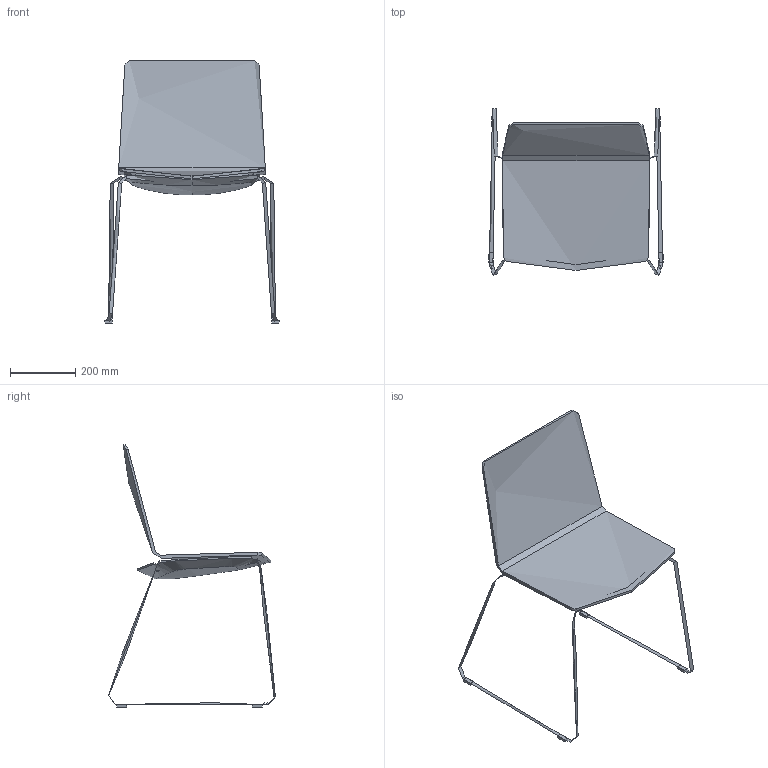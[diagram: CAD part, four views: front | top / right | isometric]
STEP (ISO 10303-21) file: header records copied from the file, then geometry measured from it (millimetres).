
FILE_DESCRIPTION(/* description */ (''),/* implementation_level */ '2;1');
FILE_NAME(/* name */ 'SKYFRE~3',/* time_stamp */ '2015-12-02T12:23:52+01:00',/* author */ (''),/* organization */ (''),/* preprocessor_version */ 'ST-DEVELOPER v15',/* originating_system */ '',/* authorisation */ '');
FILE_SCHEMA (('CONFIG_CONTROL_DESIGN'));
Length unit declared in the file: millimetre
Products named in the file (1): Document
Bounding box: 533.75 x 510.54 x 803.23 mm (x, y, z)
Volume: 3497493.1 mm3; surface area: 1032074.1 mm2
Topology: 11 solids, 16 shells, 141 faces, 309 edges, 188 vertices
Faces by surface type: bspline 103, plane 38
Entity records: 8796 total; most frequent: CARTESIAN_POINT 6898, ORIENTED_EDGE 582, EDGE_CURVE 306, VERTEX_POINT 188, ADVANCED_FACE 141, FACE_OUTER_BOUND 141, EDGE_LOOP 141, B_SPLINE_CURVE_WITH_KNOTS 120
